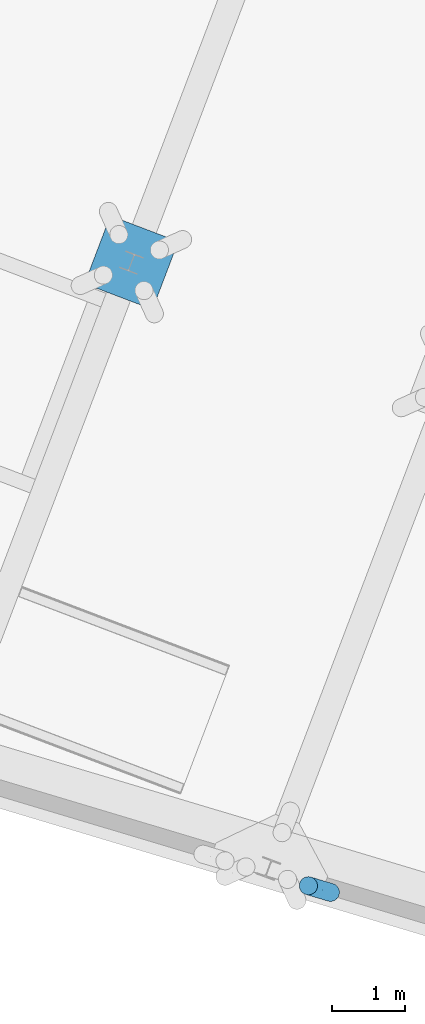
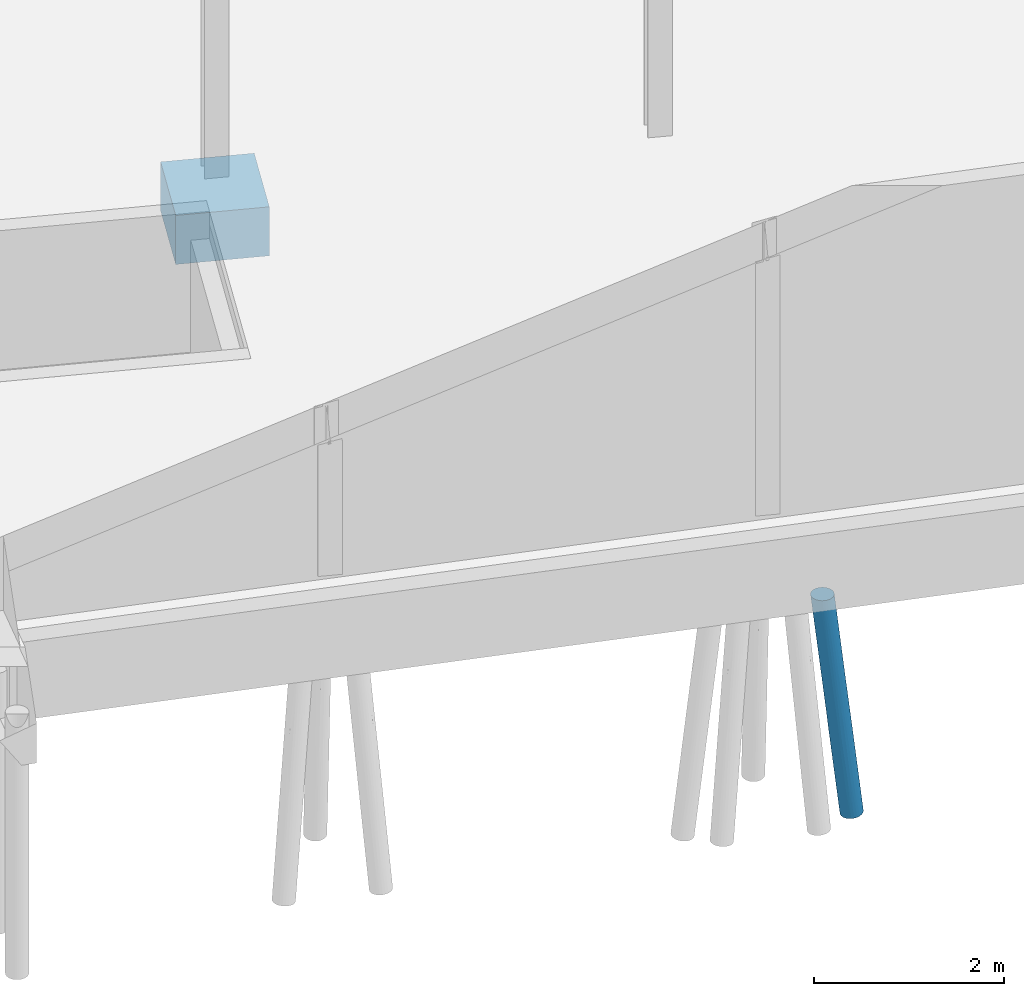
# One storey, part 8 of 46: 1 footing, 1 pile.
"""IFC2X3 building model written with IfcOpenShell, lengths in millimetres."""

from ifc_helpers import new_model, entity, si_unit, converted_unit, derived_unit, direction, frame, origin, origin_2d_with_axis, place, context, subcontext, project, spatial, rectangle, extrude, faceted_brep, source, transform, mapped, material, type_object, type_shapes, element, save


model = new_model("IFC2X3")

# Units and contexts
model_context = context("Model", 3, precision=0.01, world=origin(), true_north=direction((6.123233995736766e-17, 1.0)))
body_context = subcontext(model_context, "Body", "Model", "MODEL_VIEW")
ifc_project = project(units=[si_unit("LENGTHUNIT", "METRE", prefix="MILLI"), converted_unit("PLANEANGLEUNIT", "DEGREE", entity("IfcPlaneAngleMeasure", 0.017453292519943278), si_unit("PLANEANGLEUNIT", "RADIAN"), dimensions=[0, 0, 0, 0, 0, 0, 0]), si_unit("AREAUNIT", "SQUARE_METRE"), derived_unit("THERMALTRANSMITTANCEUNIT", [(si_unit("MASSUNIT", "GRAM", prefix="KILO"), 1), (si_unit("THERMODYNAMICTEMPERATUREUNIT", "KELVIN"), -1), (si_unit("TIMEUNIT", "SECOND"), -3)])], contexts=[model_context])

# Site, building, storey
site_placement = place(None, frame((-72937.88054949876, 11621.45624098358, 0.0), z_axis=(0.0, 0.0, 1.0), x_axis=(0.9346418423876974, -0.35559053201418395, 0.0)))
site = spatial("IfcSite", under=ifc_project, at=site_placement, Name="Default", CompositionType="ELEMENT")
building_placement = place(site_placement, origin())
building = spatial("IfcBuilding", under=site, at=building_placement, CompositionType="ELEMENT")
storey_placement = place(building_placement, origin())
storey = spatial("IfcBuildingStorey", under=building, at=storey_placement, Name="00 begane grond", CompositionType="ELEMENT", Elevation=0.0)

# Footing
ifc_material_1 = material(Name="beton_gewapend_ihw")
type_product_1 = type_object("IfcTypeProduct", Name="poer 1000x1000x800mm", material=ifc_material_1)
shared_shape_1 = source(origin(), body_context, "Body", "SweptSolid", [
    extrude(rectangle(XDim=999.999999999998, YDim=999.999999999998, at=origin_2d_with_axis()), frame((57570.0, 21880.0, -800.0), z_axis=(0.0, 0.0, 1.0), x_axis=(-1.0, 0.0, 0.0)), (0.0, 0.0, 1.0), 630.0000000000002),
])
type_shapes(type_product_1, [shared_shape_1])
footing_placement = place(storey_placement, frame((0.0, 0.0, -60.0)))
element("IfcFooting", 1, at=footing_placement, inside=storey, type_object=type_product_1, material=ifc_material_1, Name="16.13_Poer rechthoek", ObjectType="betonpoer rechthoekig", PredefinedType="PILE_CAP", context=body_context, shape_type="MappedRepresentation", body=[
    mapped(shared_shape_1, transform((0.0, 0.0, 0.0), scale=1.0)),
])

# Pile
ifc_material_2 = material(Name="beton_gewapend_prefab-element_c45/55")
type_product_2 = type_object("IfcTypeProduct", Name="Type 01", material=ifc_material_2)
shared_shape_2 = source(origin(), body_context, "Body", "Brep", [
    faceted_brep([(72.36643070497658, 41.239861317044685, -1587.2480771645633), (115.53639022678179, 54.2354673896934, -1150.0), (124.838162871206, 27.815116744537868, -1150.0), (-182.0787577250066, 65.1457063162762, -1842.6627389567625), (-165.1894529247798, 41.33003827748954, -1588.4448595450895), (-111.09194578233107, 54.23546738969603, -1150.0), (15.031797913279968, 88.27496307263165, -1836.1297740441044), (32.98344934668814, 64.94314047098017, -1840.3127773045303), (-30.14575159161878, 64.60051474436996, -2410.3553271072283), (41.77006032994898, 0.0, -1925.992599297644), (80.6380595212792, 97.7289353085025, -1150.0), (100.55257203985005, 77.9362252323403, -1150.0), (-175.6519081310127, 115.48494156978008, -3184.035406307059), (-108.17343100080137, 106.74566752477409, -2732.5343267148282), (-180.54618184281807, 99.16916754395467, -3483.986786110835), (30.20851053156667, 121.8659890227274, -1150.0), (56.79144948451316, 112.62110848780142, -1150.0), (-42.91884640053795, 117.90464735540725, -1932.2038124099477), (-120.39371842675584, 27.81511674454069, -1150.0), (-245.70385641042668, 64.88368548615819, -2413.8437241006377), (-162.25875578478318, 88.50075404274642, -1830.9574517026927), (-242.98263969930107, 88.62069146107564, -2558.5627355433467), (-151.93048965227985, 53.33845094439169, -3561.073967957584), (-133.56769714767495, 28.49629953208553, -3474.2266886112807), (-194.4421984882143, 32.35238063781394, -4013.333582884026), (12.222467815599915, 106.275938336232, -1655.8961403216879), (-73.06982999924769, 124.27812918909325, -1949.1011896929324), (-80.64748703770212, 124.23668125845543, -1770.9263967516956), (-23.427620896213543, 124.20079095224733, -1508.6429901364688), (-240.21076201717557, 123.93060767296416, -3479.642475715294), (-314.4444444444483, 125.0, -4000.0), (-265.024992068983, 123.93060767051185, -3407.479310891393), (-117.33081280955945, 0.0, -3357.900457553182), (-190.20897761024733, 0.0, -4013.803940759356), (2.2222222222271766, 125.0, -1150.0), (-25.764066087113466, 121.86598902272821, -1150.0), (-326.96702366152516, 47.83542903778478, -3066.942589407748), (-375.2689438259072, 28.366113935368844, -3445.0277270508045), (-317.9689709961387, 23.60182842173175, -2920.157783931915), (-73.70805836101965, 23.187811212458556, -2945.6497765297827), (-39.92708990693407, 41.47720200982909, -2597.136214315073), (16.085837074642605, 41.18767244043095, -2093.938466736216), (-196.28435151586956, 123.47165352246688, -2760.095105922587), (-183.665203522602, 123.01104339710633, -3024.1067526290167), (-226.59670338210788, 88.38834764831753, -4009.7608601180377), (-252.3267110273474, 108.25317547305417, -4006.901970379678), (-148.27550792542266, 76.09517863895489, -3402.494577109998), (-206.8533741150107, 62.49999999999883, -4011.9545633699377), (-52.347005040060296, 112.62110848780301, -1150.0), (-99.40312932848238, 118.21391771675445, -1696.7443345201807), (-119.74622127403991, 106.37235269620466, -1653.229951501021), (-185.92128902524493, 102.46025049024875, -2194.904710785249), (-238.2779479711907, 106.2597512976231, -2718.3665211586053), (-42.820885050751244, 102.58547775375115, -2202.1491422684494), (-156.2252162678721, 118.09364807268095, -2204.9892079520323), (-319.0271104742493, 115.48494156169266, -3608.075760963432), (-264.72929865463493, 115.48494155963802, -3119.3954545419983), (-96.10812759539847, 77.93622523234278, -1150.0), (-76.19361507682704, 97.72893530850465, -1150.0), (-1.3402226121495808, 0.0, -2313.985145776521), (-44.451993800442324, 0.0, -2701.9910864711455), (-292.6922084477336, 91.63383624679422, -3034.349570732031), (-292.9202820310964, 72.79893776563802, -2886.1326580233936), (-227.31882224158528, 115.48494156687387, -3649.0376333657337), (-282.2899395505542, 120.74072828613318, -4003.5727227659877), (-221.60043037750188, 41.38232604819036, -2096.309657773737), (-209.76851175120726, 0.0, -1925.9934634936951), (-346.59894933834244, 120.74072828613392, -3996.4272772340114), (-376.56217786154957, 108.25317547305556, -3993.0980296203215), (-66.21715172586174, 88.15377228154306, -2568.4634430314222), (-129.97696806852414, 118.32629651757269, -2704.701988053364), (-123.5470158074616, 0.0, -1150.0), (-345.703852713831, 76.09517862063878, -3383.3196685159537), (-377.5274465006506, 52.979842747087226, -3542.5215927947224), (-275.88856858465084, 42.22399193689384, -2587.6075033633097), (-402.29218550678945, 88.38834764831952, -3990.239139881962), (-422.0355147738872, 62.50000000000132, -3988.0454366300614), (-331.8470727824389, 99.16916753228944, -3467.5525053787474), (-132.44344591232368, 124.68323586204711, -2281.458802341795), (-89.11715414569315, 71.65077909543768, -2899.5648185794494), (-96.52658231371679, 47.8354290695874, -3084.4998642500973), (127.99146025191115, 0.0, -1150.0), (-252.87925972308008, 0.0, -2313.9901952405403), (-122.93481462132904, 90.89446365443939, -3053.447507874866), (-438.679911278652, 0.0, -3986.1960592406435), (-434.4466904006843, 32.352380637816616, -3986.6664171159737), (-141.73877836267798, 124.16072599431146, -2576.5969257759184), (-210.06991733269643, 117.23436667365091, -2667.881922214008), (-367.33495948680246, 0.0, -3344.091493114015), (-295.9900076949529, 0.0, -2701.9869269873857), (-120.39371842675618, -27.815116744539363, -1150.0), (-111.09194578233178, -54.23546738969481, -1150.0), (-96.10812759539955, -77.93622523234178, -1150.0), (-76.1936150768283, -97.72893530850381, -1150.0), (-52.34700504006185, -112.62110848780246, -1150.0), (-25.76406608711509, -121.86598902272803, -1150.0), (2.222222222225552, -125.0, -1150.0), (30.20851053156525, -121.86598902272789, -1150.0), (56.79144948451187, -112.62110848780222, -1150.0), (80.63805952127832, -97.7289353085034, -1150.0), (100.55257203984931, -77.93622523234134, -1150.0), (115.53639022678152, -54.23546738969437, -1150.0), (124.83816287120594, -27.815116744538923, -1150.0), (-151.9304895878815, -53.338451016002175, -3561.073967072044), (-133.5676976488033, -28.496299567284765, -3474.2266930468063), (-96.52658225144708, -47.83542901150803, -3084.4998639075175), (-140.32328536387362, -105.94191584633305, -1832.1538289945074), (-126.78568187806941, -88.44799753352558, -1511.2211246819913), (-176.7825211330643, -87.58614607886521, -1953.453255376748), (-185.53475823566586, -41.3488976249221, -1771.6124540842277), (-98.5233768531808, -124.24251446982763, -1932.2861052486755), (-221.49211536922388, -66.66107193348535, -2205.8974607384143), (-159.3540506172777, -67.83984168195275, -1653.46778938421), (-312.10423006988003, -99.16916769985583, -3289.866922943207), (-352.8086337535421, -76.09517892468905, -3447.262699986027), (-402.2921855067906, -88.38834764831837, -3990.239139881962), (-235.41358059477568, -123.93060766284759, -3436.4678436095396), (-314.44444444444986, -125.0, -4000.0), (-282.2899395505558, -120.74072828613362, -4003.5727227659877), (-384.2243809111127, -47.83542945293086, -3582.258806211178), (-328.2998352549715, -47.83542988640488, -3078.9378969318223), (-362.94366171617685, -26.27355326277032, -3329.855963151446), (-376.562177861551, -108.25317547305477, -3993.0980296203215), (-226.59670338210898, -88.38834764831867, -4009.7608601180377), (-148.27550783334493, -76.0951785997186, -3402.49457655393), (-180.54618171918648, -99.16916751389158, -3483.9867853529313), (-104.92272192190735, -118.27912572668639, -1748.1433712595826), (-163.52036571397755, -118.46525212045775, -2280.4898650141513), (-39.927089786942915, -41.4772017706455, -2597.1362139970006), (-89.11715398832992, -71.6507788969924, -2899.5648184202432), (-221.11735801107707, -106.04994682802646, -2560.8655013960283), (-274.28881423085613, -82.15433137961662, -2785.484682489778), (-434.4466904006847, -32.35238063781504, -3986.6664171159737), (-422.03551477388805, -62.49999999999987, -3988.0454366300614), (-129.97696798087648, -118.32629644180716, -2704.7019892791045), (-141.73877802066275, -124.16072595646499, -2576.596925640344), (-180.90977316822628, -122.95522291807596, -3002.087637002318), (-232.56829871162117, -117.68101498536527, -2881.4778788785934), (-242.59310629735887, -123.930607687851, -3205.592340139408), (-180.2811496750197, -124.04234815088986, -2652.6852150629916), (-346.598949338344, -120.7407282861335, -3996.4272772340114), (-301.7888662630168, -115.48494161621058, -3452.931564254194), (-206.85337411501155, -62.50000000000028, -4011.9545633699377), (-29.559553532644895, -124.19873841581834, -1563.993853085), (-83.4987298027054, -124.18127902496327, -2050.828488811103), (-42.91884618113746, -117.90464729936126, -1932.2038118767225), (-30.14575143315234, -64.60051457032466, -2410.3553266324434), (32.983449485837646, -64.94314037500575, -1840.3127765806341), (15.03179802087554, -88.27496298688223, -1836.1297738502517), (12.222467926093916, -106.27593827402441, -1655.89614023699), (-42.820884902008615, -102.58547764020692, -2202.149142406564), (-73.70805863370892, -23.18781108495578, -2945.6497792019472), (72.36643080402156, -41.2398612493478, -1587.2480764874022), (16.08583725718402, -41.18767230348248, -2093.9384655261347), (-221.94118502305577, -91.78881553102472, -2399.105716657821), (-122.93481449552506, -90.89446347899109, -3053.447508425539), (-66.2171515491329, -88.15377212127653, -2568.463442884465), (-108.173430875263, -106.74566744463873, -2732.534326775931), (-262.27997921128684, -34.77836369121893, -2443.29023072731), (-252.32671102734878, -108.25317547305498, -4006.901970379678), (-227.31882233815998, -115.48494155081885, -3649.0376345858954), (-277.036285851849, -61.03344887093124, -2675.5040755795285), (-194.44219848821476, -32.35238063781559, -4013.333582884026), (-312.1095376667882, -26.52940126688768, -2872.8494770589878), (-175.65190824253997, -115.48494153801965, -3184.0354080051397)], [[[0, 1, 2]], [[3, 4, 5]], [[6, 7, 8]], [[0, 2, 9]], [[10, 11, 6]], [[12, 13, 14]], [[15, 16, 17]], [[18, 5, 4]], [[19, 20, 21]], [[22, 23, 24]], [[25, 16, 10]], [[26, 27, 28]], [[29, 30, 31]], [[23, 32, 33]], [[7, 6, 11]], [[34, 27, 35]], [[36, 37, 38]], [[23, 39, 32]], [[40, 8, 41]], [[31, 42, 43]], [[14, 44, 45]], [[19, 3, 20]], [[34, 15, 28]], [[46, 47, 44]], [[48, 49, 50]], [[51, 52, 21]], [[17, 25, 53]], [[46, 22, 47]], [[49, 54, 50]], [[31, 55, 56]], [[20, 57, 58]], [[41, 9, 59, 60]], [[21, 61, 62]], [[41, 7, 0]], [[63, 45, 64]], [[4, 65, 66]], [[57, 3, 5]], [[50, 51, 20]], [[55, 67, 68]], [[56, 42, 31]], [[13, 53, 69]], [[12, 70, 13]], [[66, 71, 18]], [[36, 72, 73]], [[31, 30, 67]], [[36, 38, 74]], [[21, 52, 61]], [[74, 62, 36]], [[36, 73, 37]], [[72, 75, 76]], [[72, 77, 75]], [[50, 20, 58]], [[46, 44, 14]], [[7, 41, 8]], [[42, 54, 78]], [[26, 78, 27]], [[79, 40, 80]], [[9, 2, 81]], [[82, 66, 65]], [[60, 39, 40]], [[83, 14, 13]], [[77, 68, 75]], [[84, 37, 85]], [[21, 62, 19]], [[29, 64, 30]], [[31, 43, 29]], [[83, 79, 46]], [[12, 14, 63]], [[68, 77, 55]], [[77, 61, 52]], [[64, 29, 63]], [[43, 70, 12]], [[7, 11, 1]], [[41, 0, 9]], [[1, 0, 7]], [[69, 6, 8]], [[69, 8, 79]], [[40, 79, 8]], [[18, 4, 66]], [[65, 4, 3]], [[19, 65, 3]], [[20, 3, 57]], [[65, 19, 74]], [[72, 36, 62]], [[86, 42, 78]], [[52, 87, 56]], [[69, 79, 83]], [[46, 79, 80]], [[13, 69, 83]], [[14, 83, 46]], [[6, 69, 53]], [[86, 17, 70]], [[6, 53, 25]], [[17, 53, 70]], [[6, 25, 10]], [[16, 25, 17]], [[80, 40, 39]], [[40, 41, 60]], [[80, 39, 23]], [[39, 60, 32]], [[80, 23, 22]], [[24, 23, 33]], [[80, 22, 46]], [[47, 22, 24]], [[74, 19, 62]], [[77, 72, 61]], [[62, 61, 72]], [[56, 77, 52]], [[42, 56, 87]], [[20, 51, 21]], [[51, 54, 52]], [[54, 49, 27]], [[51, 50, 54]], [[48, 50, 58]], [[53, 13, 70]], [[86, 70, 43]], [[86, 43, 42]], [[29, 43, 12]], [[67, 55, 31]], [[82, 65, 74]], [[38, 88, 89, 82]], [[88, 38, 37]], [[88, 37, 84]], [[76, 85, 73]], [[37, 73, 85]], [[76, 73, 72]], [[87, 54, 42]], [[87, 52, 54]], [[82, 74, 38]], [[56, 55, 77]], [[17, 86, 26]], [[27, 78, 54]], [[78, 26, 86]], [[15, 17, 28]], [[34, 28, 27]], [[26, 28, 17]], [[45, 63, 14]], [[12, 63, 29]], [[49, 35, 27]], [[35, 49, 48]], [[48, 58, 57, 5, 18, 71, 90, 91, 92, 93, 94, 95, 96, 97, 98, 99, 100, 101, 102, 81, 2, 1, 11, 10, 16, 15, 34, 35]], [[103, 104, 105]], [[9, 81, 102]], [[106, 107, 108]], [[91, 90, 109]], [[96, 95, 110]], [[109, 111, 112]], [[113, 114, 115]], [[116, 117, 118]], [[93, 106, 94]], [[119, 120, 121]], [[122, 113, 115]], [[112, 111, 108]], [[123, 124, 125]], [[126, 127, 110]], [[88, 84, 121]], [[90, 71, 66]], [[128, 129, 105]], [[130, 131, 113]], [[127, 126, 106]], [[119, 132, 133]], [[134, 135, 136]], [[137, 138, 139]], [[122, 140, 141]], [[124, 123, 142]], [[143, 144, 145]], [[146, 147, 148]], [[149, 150, 148]], [[114, 113, 131]], [[105, 104, 151]], [[144, 134, 145]], [[152, 153, 9]], [[113, 122, 141]], [[98, 97, 145]], [[126, 95, 94]], [[99, 148, 100]], [[137, 141, 138]], [[154, 131, 130]], [[105, 151, 128]], [[138, 140, 117]], [[138, 117, 116]], [[155, 156, 157]], [[143, 97, 96]], [[66, 158, 109]], [[159, 160, 118]], [[134, 150, 145]], [[102, 101, 152]], [[105, 124, 103]], [[109, 158, 111]], [[156, 146, 148]], [[91, 112, 92]], [[156, 155, 129]], [[101, 100, 147]], [[147, 152, 101]], [[148, 99, 149]], [[150, 157, 156]], [[111, 158, 161]], [[109, 90, 66]], [[114, 133, 115]], [[113, 141, 137]], [[125, 159, 123]], [[59, 9, 153]], [[33, 104, 162]], [[156, 129, 146]], [[136, 139, 138]], [[120, 158, 163]], [[164, 116, 160]], [[133, 114, 119]], [[111, 161, 131]], [[120, 114, 161]], [[154, 108, 111]], [[130, 113, 137]], [[141, 140, 138]], [[121, 120, 163]], [[158, 66, 82, 89]], [[159, 125, 160]], [[125, 155, 157]], [[102, 152, 9]], [[153, 152, 147]], [[146, 153, 147]], [[148, 147, 100]], [[153, 146, 128]], [[124, 105, 129]], [[137, 127, 130]], [[139, 136, 135]], [[130, 127, 106]], [[139, 144, 110]], [[139, 127, 137]], [[127, 139, 110]], [[128, 146, 129]], [[125, 124, 155]], [[129, 155, 124]], [[164, 125, 157]], [[164, 157, 134]], [[148, 150, 156]], [[157, 150, 134]], [[98, 145, 149]], [[150, 149, 145]], [[98, 149, 99]], [[109, 112, 91]], [[59, 153, 128]], [[151, 32, 60]], [[32, 151, 104]], [[32, 104, 33]], [[142, 162, 103]], [[104, 103, 162]], [[142, 103, 124]], [[106, 126, 94]], [[126, 110, 95]], [[116, 164, 136]], [[144, 135, 134]], [[134, 136, 164]], [[116, 136, 138]], [[121, 84, 132]], [[120, 119, 114]], [[119, 121, 132]], [[89, 88, 163]], [[121, 163, 88]], [[163, 158, 89]], [[128, 151, 60]], [[128, 60, 59]], [[107, 93, 92]], [[107, 92, 112]], [[130, 106, 154]], [[93, 107, 106]], [[108, 107, 112]], [[135, 144, 139]], [[96, 110, 143]], [[97, 143, 145]], [[144, 143, 110]], [[118, 160, 116]], [[164, 160, 125]], [[131, 161, 114]], [[120, 161, 158]], [[131, 154, 111]], [[108, 154, 106]], [[115, 133, 132, 84, 85, 76, 75, 68, 67, 30, 64, 45, 44, 47, 24, 33, 162, 142, 123, 159, 118, 117, 140, 122]]]),
])
type_shapes(type_product_2, [shared_shape_2])
pile_placement = place(storey_placement, frame((62900.21019405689, 14728.312381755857, 0.0), z_axis=(0.0, 0.0, 1.0), x_axis=(-0.997376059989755, -0.07239471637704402, 0.0)))
element("IfcPile", 2, at=pile_placement, inside=storey, type_object=type_product_2, material=ifc_material_2, Name="17.21_Prefab funderingspaal rond", ObjectType="prefab paal rond", PredefinedType="NOTDEFINED", context=body_context, shape_type="MappedRepresentation", body=[
    mapped(shared_shape_2, transform((0.0, 0.0, 0.0), scale=1.0)),
])

save(model, "model.ifc")
